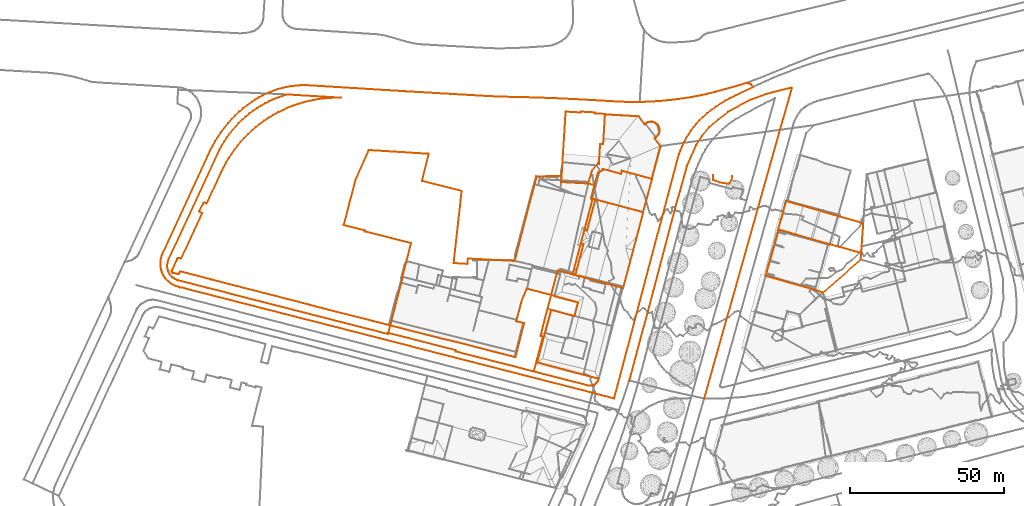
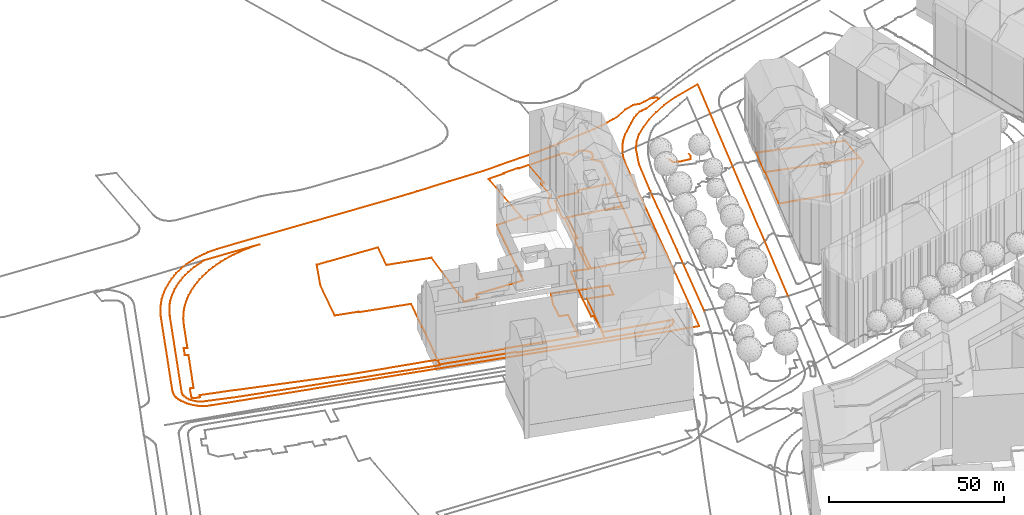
# Not in any storey, part 215 of 494: 14 proxies.
"""IFC2X3 model written with IfcOpenShell, lengths in metres."""

from ifc_helpers import new_model, entity, si_unit, frame, origin_with_axes, place, context, subcontext, project, element, save


model = new_model("IFC2X3")

# Units and contexts
model_context = context("Model", 3, precision=1e-05, world=origin_with_axes())
body_context = subcontext(model_context, "Body", "Model", "MODEL_VIEW")
ifc_project = project(units=[si_unit("AREAUNIT", "SQUARE_METRE"), si_unit("LENGTHUNIT", "METRE")], contexts=[model_context])

# Proxies
proxy_1_placement = place(None, frame((44.610732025, 355.0317323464, 539.326), z_axis=(0.0, 0.0, 1.0), x_axis=(1.0, 0.0, 0.0)))
element("IfcBuildingElementProxy", 1, at=proxy_1_placement, Name="Road 47", ObjectType="NOTDEFINED", context=body_context, shape_type="GeometricCurveSet", body=[
    entity("IfcGeometricCurveSet", [entity("IfcPolyline", [entity("IfcCartesianPoint", [28.5510000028, 101.1739969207, 2.647]), entity("IfcCartesianPoint", [0.0, 0.0, 0.0])])]),
])
proxy_2_placement = place(None, frame((20.2697320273, 360.9057321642, 539.316), z_axis=(0.0, 0.0, 1.0), x_axis=(1.0, 0.0, 0.0)))
element("IfcBuildingElementProxy", 2, at=proxy_2_placement, Name="Road 89", ObjectType="NOTDEFINED", context=body_context, shape_type="GeometricCurveSet", body=[
    entity("IfcGeometricCurveSet", [entity("IfcPolyline", [entity("IfcCartesianPoint", [52.8920000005, 95.2999971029, 2.657]), entity("IfcCartesianPoint", [44.4070000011, 93.1439971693, 2.479]), entity("IfcCartesianPoint", [39.3729999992, 91.2739972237, 2.572]), entity("IfcCartesianPoint", [35.7780000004, 89.4039972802, 2.417]), entity("IfcCartesianPoint", [32.1829999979, 87.3909973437, 2.405]), entity("IfcCartesianPoint", [28.8739999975, 84.8029974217, 2.396]), entity("IfcCartesianPoint", [25.9979999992, 82.3579974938, 2.44]), entity("IfcCartesianPoint", [23.6799999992, 79.6389975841, 2.438]), entity("IfcCartesianPoint", [21.6959999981, 76.5969976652, 2.347]), entity("IfcCartesianPoint", [18.7849999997, 69.8499978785, 2.122]), entity("IfcCartesianPoint", [18.7010000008, 69.5489978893, 2.112]), entity("IfcCartesianPoint", [15.2129999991, 57.1499982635, 1.72]), entity("IfcCartesianPoint", [7.8049999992, 29.10399912, 0.847]), entity("IfcCartesianPoint", [0.0, 0.0, 0.0])])]),
])
proxy_3_placement = place(None, frame((-129.9792679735, 398.5037160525, 539.2976639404), z_axis=(0.0, 0.0, 1.0), x_axis=(1.0, 0.0, 0.0)))
element("IfcBuildingElementProxy", 3, at=proxy_3_placement, Name="Roads Outline 23", ObjectType="NOTDEFINED", context=body_context, shape_type="GeometricCurveSet", body=[
    entity("IfcGeometricCurveSet", [entity("IfcPolyline", [entity("IfcCartesianPoint", [0.4560000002, 1.814, -0.0081571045]), entity("IfcCartesianPoint", [16.3220000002, 36.0729999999, 0.1580245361]), entity("IfcCartesianPoint", [16.9960000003, 37.45, 0.1580245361]), entity("IfcCartesianPoint", [17.7290000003, 38.798, 0.1580245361]), entity("IfcCartesianPoint", [18.5190000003, 40.112, 0.1580245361]), entity("IfcCartesianPoint", [19.3640000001, 41.392, 0.1580245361]), entity("IfcCartesianPoint", [20.264, 42.6339999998, 0.1580245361]), entity("IfcCartesianPoint", [21.216, 43.8359999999, 0.1580245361]), entity("IfcCartesianPoint", [22.219, 44.9959999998, 0.1580245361]), entity("IfcCartesianPoint", [23.2710000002, 46.112, 0.1580245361]), entity("IfcCartesianPoint", [24.3689999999, 47.182, 0.1580245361]), entity("IfcCartesianPoint", [25.5130000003, 48.2039999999, 0.1580245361]), entity("IfcCartesianPoint", [26.699, 49.176, 0.1580245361]), entity("IfcCartesianPoint", [27.926, 50.0959999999, 0.1580245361]), entity("IfcCartesianPoint", [29.1920000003, 50.963, 0.1580245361]), entity("IfcCartesianPoint", [30.4930000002, 51.774, 0.1580245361]), entity("IfcCartesianPoint", [31.8280000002, 52.5289999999, 0.1580245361]), entity("IfcCartesianPoint", [33.1940000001, 53.226, 0.1580245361]), entity("IfcCartesianPoint", [34.5890000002, 53.8629999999, 0.1580245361]), entity("IfcCartesianPoint", [36.0100000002, 54.4409999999, 0.1580245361]), entity("IfcCartesianPoint", [37.4550000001, 54.956, 0.1580245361]), entity("IfcCartesianPoint", [38.9200000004, 55.409, 0.1580245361]), entity("IfcCartesianPoint", [56.4670000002, 54.3389999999, 0.1580245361]), entity("IfcCartesianPoint", [54.7000000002, 54.3499999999, 0.1580245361]), entity("IfcCartesianPoint", [52.9330000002, 54.2859999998, 0.1580245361]), entity("IfcCartesianPoint", [51.1720000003, 54.1469999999, 0.1580245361]), entity("IfcCartesianPoint", [49.4170000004, 53.933, 0.1580245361]), entity("IfcCartesianPoint", [47.6740000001, 53.645, 0.1580245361]), entity("IfcCartesianPoint", [45.9440000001, 53.2829999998, 0.1580245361]), entity("IfcCartesianPoint", [44.2310000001, 52.848, 0.1580245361]), entity("IfcCartesianPoint", [42.5380000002, 52.3399999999, 0.1580245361]), entity("IfcCartesianPoint", [40.8680000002, 51.7609999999, 0.1580245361]), entity("IfcCartesianPoint", [39.2250000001, 51.111, 0.1580245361]), entity("IfcCartesianPoint", [37.6100000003, 50.392, 0.1580245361]), entity("IfcCartesianPoint", [36.0280000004, 49.605, 0.1580245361]), entity("IfcCartesianPoint", [34.48, 48.7519999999, 0.1580245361]), entity("IfcCartesianPoint", [32.9700000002, 47.8329999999, 0.1580245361]), entity("IfcCartesianPoint", [31.5, 46.851, 0.1580245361]), entity("IfcCartesianPoint", [30.074, 45.808, 0.1580245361]), entity("IfcCartesianPoint", [28.7580000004, 44.7589999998, 0.1580245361]), entity("IfcCartesianPoint", [27.4850000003, 43.6579999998, 0.1580245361]), entity("IfcCartesianPoint", [26.2580000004, 42.507, 0.1580245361]), entity("IfcCartesianPoint", [25.0780000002, 41.3059999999, 0.1580245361]), entity("IfcCartesianPoint", [23.9480000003, 40.0589999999, 0.1580245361]), entity("IfcCartesianPoint", [22.8689999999, 38.767, 0.1580245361]), entity("IfcCartesianPoint", [21.844, 37.433, 0.1580245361]), entity("IfcCartesianPoint", [20.8730000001, 36.058, 0.1580245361]), entity("IfcCartesianPoint", [19.9590000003, 34.645, 0.1580245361]), entity("IfcCartesianPoint", [19.102, 33.1969999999, 0.1580245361]), entity("IfcCartesianPoint", [18.3050000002, 31.7139999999, 0.1580245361]), entity("IfcCartesianPoint", [17.5690000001, 30.2009999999, 0.1580245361]), entity("IfcCartesianPoint", [12.8080000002, 19.8959999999, 0.1146627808]), entity("IfcCartesianPoint", [11.8260000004, 20.3369999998, 0.1138363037]), entity("IfcCartesianPoint", [10.3800000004, 17.2589999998, 0.1123380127]), entity("IfcCartesianPoint", [11.372, 16.814, 0.1101798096]), entity("IfcCartesianPoint", [4.4900000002, 1.9949999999, -0.0055057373]), entity("IfcCartesianPoint", [4.0530000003, 2.203, -0.0024588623]), entity("IfcCartesianPoint", [3.8800000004, 2.227, -0.0021072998]), entity("IfcCartesianPoint", [3.7060000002, 2.2109999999, -0.0023416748]), entity("IfcCartesianPoint", [3.5410000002, 2.155, -0.0031619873]), entity("IfcCartesianPoint", [3.392, 2.0629999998, -0.0045096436]), entity("IfcCartesianPoint", [3.2690000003, 1.9399999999, -0.0063114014]), entity("IfcCartesianPoint", [3.1770000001, 1.791, -0.0084940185]), entity("IfcCartesianPoint", [1.5650000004, -1.7960000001, 0.0688849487]), entity("IfcCartesianPoint", [1.5160000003, -1.98, 0.0642158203]), entity("IfcCartesianPoint", [1.5300000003, -2.1700000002, 0.0567243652]), entity("IfcCartesianPoint", [1.6040000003, -2.3460000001, 0.0497849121]), entity("IfcCartesianPoint", [1.7000000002, -2.4620000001, 0.0452111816]), entity("IfcCartesianPoint", [1.8230000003, -2.55, 0.0417414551]), entity("IfcCartesianPoint", [1.963, -2.6040000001, 0.0396123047]), entity("IfcCartesianPoint", [3.324, -2.946, 0.0219205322]), entity("IfcCartesianPoint", [3.477, -2.9640000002, 0.0205406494]), entity("IfcCartesianPoint", [3.6290000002, -2.943, 0.0221505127]), entity("IfcCartesianPoint", [3.7710000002, -2.8840000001, 0.0266734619]), entity("IfcCartesianPoint", [3.8970000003, -2.7860000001, 0.0324362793]), entity("IfcCartesianPoint", [3.9930000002, -2.659, 0.0374437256]), entity("IfcCartesianPoint", [4.0530000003, -2.5110000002, 0.0432791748]), entity("IfcCartesianPoint", [4.1460000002, -2.125, 0.0584986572]), entity("IfcCartesianPoint", [14.3480000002, -4.716, -0.1490685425]), entity("IfcCartesianPoint", [14.6040000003, -4.7810000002, -0.1566500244]), entity("IfcCartesianPoint", [14.5890000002, -4.8390000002, -0.1634157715]), entity("IfcCartesianPoint", [46.4100000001, -13.0050000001, -1.0613162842]), entity("IfcCartesianPoint", [46.398, -13.0530000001, -1.0582108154]), entity("IfcCartesianPoint", [66.7110000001, -18.22, -0.8727605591]), entity("IfcCartesianPoint", [71.2630000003, -19.3770000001, -0.8522108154]), entity("IfcCartesianPoint", [72.2390000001, -19.6270000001, -0.8477705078]), entity("IfcCartesianPoint", [88.162, -23.7110000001, -0.7752872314]), entity("IfcCartesianPoint", [88.608, -23.8250000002, -0.7732694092]), entity("IfcCartesianPoint", [93.0760000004, -24.8600000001, -0.7548870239]), entity("IfcCartesianPoint", [113.199, -30.0420000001, -0.662861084]), entity("IfcCartesianPoint", [116.048, -18.97, -0.8594396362]), entity("IfcCartesianPoint", [113.514, -18.317, -0.8710377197]), entity("IfcCartesianPoint", [115.1530000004, -11.9480000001, -0.9666266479]), entity("IfcCartesianPoint", [116.8940000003, -7.746, -0.5581720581]), entity("IfcCartesianPoint", [125.952, -10.0930000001, -0.7818460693]), entity("IfcCartesianPoint", [125.932, -10.166, -0.7882353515]), entity("IfcCartesianPoint", [133.5990000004, -12.22, -0.8647923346]), entity("IfcCartesianPoint", [132.4190000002, -16.638, -0.847983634]), entity("IfcCartesianPoint", [132.4040000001, -16.6940000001, -0.8482856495]), entity("IfcCartesianPoint", [124.8120000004, -14.6600000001, -0.9306699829]), entity("IfcCartesianPoint", [122.7170000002, -22.5090000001, -0.7965826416]), entity("IfcCartesianPoint", [120.2650000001, -31.696, -0.6335322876]), entity("IfcCartesianPoint", [140.324, -37.0490000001, -0.1245398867]), entity("IfcCartesianPoint", [140.1700000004, -37.4880000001, -0.1121940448]), entity("IfcCartesianPoint", [139.9500000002, -37.898, -0.120806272]), entity("IfcCartesianPoint", [139.6690000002, -38.2690000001, -0.1700981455]), entity("IfcCartesianPoint", [139.335, -38.5920000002, -0.208320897]), entity("IfcCartesianPoint", [138.9540000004, -38.8600000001, -0.2353365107]), entity("IfcCartesianPoint", [138.534, -39.0590000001, -0.2566715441]), entity("IfcCartesianPoint", [138.088, -39.1910000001, -0.2815631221]), entity("IfcCartesianPoint", [137.6270000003, -39.253, -0.322084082]), entity("IfcCartesianPoint", [137.162, -39.2420000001, -0.3612637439]), entity("IfcCartesianPoint", [136.7040000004, -39.1600000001, -0.3818549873]), entity("IfcCartesianPoint", [119.182, -34.672, -0.5855060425]), entity("IfcCartesianPoint", [93.841, -28.1730000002, -0.6960440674]), entity("IfcCartesianPoint", [93.9410000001, -27.7830000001, -0.7029709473]), entity("IfcCartesianPoint", [71.8700000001, -22.1240000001, -0.8034207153]), entity("IfcCartesianPoint", [71.77, -22.514, -0.7964938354]), entity("IfcCartesianPoint", [13.077, -7.466, -0.5204889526]), entity("IfcCartesianPoint", [3.767, -5.0870000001, -0.1923723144]), entity("IfcCartesianPoint", [3.173, -4.9010000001, -0.1706549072]), entity("IfcCartesianPoint", [2.6060000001, -4.642, -0.1404373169]), entity("IfcCartesianPoint", [2.077, -4.3150000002, -0.1022966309]), entity("IfcCartesianPoint", [1.5920000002, -3.9240000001, -0.0566911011]), entity("IfcCartesianPoint", [1.159, -3.476, -0.0187093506]), entity("IfcCartesianPoint", [0.7860000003, -2.9780000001, 0.0194674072]), entity("IfcCartesianPoint", [0.477, -2.4370000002, 0.0461968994]), entity("IfcCartesianPoint", [0.2439999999, -1.855, 0.0691444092]), entity("IfcCartesianPoint", [0.085, -1.2490000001, 0.0522252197]), entity("IfcCartesianPoint", [0.003, -0.6270000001, 0.0297733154]), entity("IfcCartesianPoint", [0.0, 0.0, 0.0]), entity("IfcCartesianPoint", [0.0760000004, 0.622, -0.0123456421]), entity("IfcCartesianPoint", [0.2280000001, 1.23, -0.016711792]), entity("IfcCartesianPoint", [0.4560000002, 1.814, -0.0081571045])])]),
])
proxy_4_placement = place(None, frame((-132.1772679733, 399.1867160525, 539.2847263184), z_axis=(0.0, 0.0, 1.0), x_axis=(1.0, 0.0, 0.0)))
element("IfcBuildingElementProxy", 4, at=proxy_4_placement, Name="Roads Outline 24", ObjectType="NOTDEFINED", context=body_context, shape_type="GeometricCurveSet", body=[
    entity("IfcGeometricCurveSet", [entity("IfcPolyline", [entity("IfcCartesianPoint", [0.0, 0.0, 0.0]), entity("IfcCartesianPoint", [0.0580000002, 0.7479999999, -0.000829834]), entity("IfcCartesianPoint", [0.1830000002, 1.4879999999, 0.0100100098]), entity("IfcCartesianPoint", [0.3730000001, 2.213, 0.020630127]), entity("IfcCartesianPoint", [0.628, 2.919, 0.0309453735]), entity("IfcCartesianPoint", [15.3999999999, 34.7830000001, 0.1709621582]), entity("IfcCartesianPoint", [16.1329999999, 36.416, 0.1709621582]), entity("IfcCartesianPoint", [16.9380000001, 38.0149999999, 0.1709621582]), entity("IfcCartesianPoint", [17.8130000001, 39.577, 0.1709621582]), entity("IfcCartesianPoint", [18.7560000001, 41.098, 0.1709621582]), entity("IfcCartesianPoint", [19.7659999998, 42.5759999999, 0.1709621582]), entity("IfcCartesianPoint", [20.841, 44.0079999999, 0.1709621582]), entity("IfcCartesianPoint", [21.9530000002, 45.362, 0.1709621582]), entity("IfcCartesianPoint", [23.1230000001, 46.6669999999, 0.1709621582]), entity("IfcCartesianPoint", [24.3480000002, 47.9199999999, 0.1709621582]), entity("IfcCartesianPoint", [25.6260000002, 49.1189999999, 0.1709621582]), entity("IfcCartesianPoint", [26.9550000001, 50.2609999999, 0.1709621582]), entity("IfcCartesianPoint", [28.3330000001, 51.344, 0.1709621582]), entity("IfcCartesianPoint", [29.7560000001, 52.3669999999, 0.1709621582]), entity("IfcCartesianPoint", [30.8620000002, 53.1070000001, 0.1709621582]), entity("IfcCartesianPoint", [32.0010000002, 53.7959999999, 0.1709621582]), entity("IfcCartesianPoint", [33.1699999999, 54.433, 0.1709621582]), entity("IfcCartesianPoint", [34.3659999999, 55.017, 0.1709621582]), entity("IfcCartesianPoint", [35.6510000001, 55.5719999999, 0.1709621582]), entity("IfcCartesianPoint", [36.9610000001, 56.064, 0.1709621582]), entity("IfcCartesianPoint", [38.2930000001, 56.4939999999, 0.1709621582]), entity("IfcCartesianPoint", [39.6430000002, 56.8599999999, 0.1709621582]), entity("IfcCartesianPoint", [41.0100000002, 57.1609999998, 0.1709621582]), entity("IfcCartesianPoint", [42.5060000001, 57.4180000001, 0.1709621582]), entity("IfcCartesianPoint", [44.014, 57.598, 0.1709621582]), entity("IfcCartesianPoint", [45.5290000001, 57.702, 0.1709621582]), entity("IfcCartesianPoint", [47.0470000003, 57.7290000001, 0.1709621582]), entity("IfcCartesianPoint", [48.5640000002, 57.679, 0.1709621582]), entity("IfcCartesianPoint", [79.8539999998, 55.7390000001, 0.1709621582]), entity("IfcCartesianPoint", [106.3429999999, 54.206, 0.1709621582]), entity("IfcCartesianPoint", [108.6409999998, 54.0970000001, 0.1709621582]), entity("IfcCartesianPoint", [110.9399999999, 54.0090000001, 0.1709621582]), entity("IfcCartesianPoint", [113.483, 53.939, 0.1709621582]), entity("IfcCartesianPoint", [116.0260000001, 53.8969999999, 0.1709621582]), entity("IfcCartesianPoint", [121.4989999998, 53.7490000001, 0.1709621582]), entity("IfcCartesianPoint", [126.9709999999, 53.5530000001, 0.1709621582]), entity("IfcCartesianPoint", [132.25, 53.3219999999, 0.2263533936]), entity("IfcCartesianPoint", [137.5260000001, 53.0459999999, 0.5566784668]), entity("IfcCartesianPoint", [146.4780000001, 52.5379999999, 1.1759785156]), entity("IfcCartesianPoint", [148.8149999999, 52.4010000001, 1.3408413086]), entity("IfcCartesianPoint", [151.1540000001, 52.3149999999, 1.505840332]), entity("IfcCartesianPoint", [153.4950000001, 52.28, 1.6707314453]), entity("IfcCartesianPoint", [155.8360000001, 52.2959999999, 1.8248441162]), entity("IfcCartesianPoint", [156.5260000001, 52.308, 1.8687376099]), entity("IfcCartesianPoint", [157.2149999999, 52.325, 1.9125991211]), entity("IfcCartesianPoint", [159.7570000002, 52.429, 2.074397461]), entity("IfcCartesianPoint", [162.2960000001, 52.594, 2.0724216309]), entity("IfcCartesianPoint", [164.8310000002, 52.8189999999, 2.1272253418]), entity("IfcCartesianPoint", [167.0699999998, 53.067, 2.0545699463]), entity("IfcCartesianPoint", [169.3029999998, 53.3629999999, 2.0138759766]), entity("IfcCartesianPoint", [171.5300000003, 53.7050000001, 2.0725414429]), entity("IfcCartesianPoint", [173.7280000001, 54.0759999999, 2.2215261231]), entity("IfcCartesianPoint", [175.9160000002, 54.504, 2.2819563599]), entity("IfcCartesianPoint", [178.0920000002, 54.99, 2.4810037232]), entity("IfcCartesianPoint", [180.5720000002, 55.6199999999, 3.3482492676]), entity("IfcCartesianPoint", [183.0329999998, 56.3229999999, 3.3436479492]), entity("IfcCartesianPoint", [183.7579999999, 56.5449999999, 3.2761661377]), entity("IfcCartesianPoint", [186.0090000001, 57.1229999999, 2.5087397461]), entity("IfcCartesianPoint", [188.2430000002, 57.763, 2.1510275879]), entity("IfcCartesianPoint", [190.4580000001, 58.466, 2.0687412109]), entity("IfcCartesianPoint", [190.946, 58.382, 2.0569462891]), entity("IfcCartesianPoint", [191.4199999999, 58.237, 2.0489174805]), entity("IfcCartesianPoint", [191.8629999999, 58.0389999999, 2.0615715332]), entity("IfcCartesianPoint", [192.2779999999, 57.7879999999, 2.0734257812]), entity("IfcCartesianPoint", [192.6239999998, 57.1459999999, 2.0698787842]), entity("IfcCartesianPoint", [186.7609999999, 54.29, 2.3174960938]), entity("IfcCartesianPoint", [185.1860000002, 53.517, 2.8058417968]), entity("IfcCartesianPoint", [183.645, 52.679, 3.2944155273]), entity("IfcCartesianPoint", [182.1409999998, 51.7779999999, 3.3651279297]), entity("IfcCartesianPoint", [180.6749999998, 50.814, 3.3584084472]), entity("IfcCartesianPoint", [179.2039999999, 49.753, 2.7325586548]), entity("IfcCartesianPoint", [177.781, 48.629, 2.4196351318]), entity("IfcCartesianPoint", [176.4070000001, 47.4450000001, 2.2768447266]), entity("IfcCartesianPoint", [175.0860000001, 46.202, 2.2866617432]), entity("IfcCartesianPoint", [174.1540000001, 45.1459999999, 2.2548073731]), entity("IfcCartesianPoint", [173.273, 44.0489999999, 2.1833717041]), entity("IfcCartesianPoint", [172.4419999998, 42.9109999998, 2.0920245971]), entity("IfcCartesianPoint", [171.6660000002, 41.737, 2.0741766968]), entity("IfcCartesianPoint", [170.9440000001, 40.5279999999, 2.0594749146]), entity("IfcCartesianPoint", [170.2630000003, 39.2549999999, 2.0408618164]), entity("IfcCartesianPoint", [169.6430000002, 37.9509999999, 2.0212976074]), entity("IfcCartesianPoint", [169.085, 36.6199999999, 2.0208614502]), entity("IfcCartesianPoint", [168.5899999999, 35.263, 2.0367229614]), entity("IfcCartesianPoint", [168.1600000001, 33.885, 2.0436937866]), entity("IfcCartesianPoint", [156.6880000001, -9.3800000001, 0.8902549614]), entity("IfcCartesianPoint", [148.6529999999, -39.767, -0.0517641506]), entity("IfcCartesianPoint", [147.4550000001, -44.1200000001, -0.1773587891]), entity("IfcCartesianPoint", [143.6299999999, -43.112, -0.215316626]), entity("IfcCartesianPoint", [140.4580000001, -42.2879999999, -0.3057739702]), entity("IfcCartesianPoint", [7.1310000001, -8.128, -0.5047250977]), entity("IfcCartesianPoint", [6.395, -7.996, -0.4869602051]), entity("IfcCartesianPoint", [5.673, -7.7990000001, -0.4604474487]), entity("IfcCartesianPoint", [4.9709999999, -7.54, -0.4255905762]), entity("IfcCartesianPoint", [4.2949999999, -7.2210000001, -0.3763928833]), entity("IfcCartesianPoint", [3.6499999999, -6.8430000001, -0.3174918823]), entity("IfcCartesianPoint", [3.04, -6.409, -0.2540444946]), entity("IfcCartesianPoint", [2.4709999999, -5.9240000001, -0.1974157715]), entity("IfcCartesianPoint", [2.0040000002, -5.4540000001, -0.1425460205]), entity("IfcCartesianPoint", [1.5759999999, -4.95, -0.083760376]), entity("IfcCartesianPoint", [1.1869999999, -4.4129999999, -0.0252434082]), entity("IfcCartesianPoint", [0.8420000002, -3.848, 0.0180695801]), entity("IfcCartesianPoint", [0.5419999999, -3.2580000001, 0.0536933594]), entity("IfcCartesianPoint", [0.3300000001, -2.628, 0.0785334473]), entity("IfcCartesianPoint", [0.1690000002, -1.983, 0.0667161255]), entity("IfcCartesianPoint", [0.0600000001, -1.327, 0.0435181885]), entity("IfcCartesianPoint", [0.0040000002, -0.665, 0.0120828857]), entity("IfcCartesianPoint", [0.0, 0.0, 0.0])])]),
])
proxy_5_placement = place(None, frame((1.9097320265, 395.6687160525, 539.3216141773), z_axis=(0.0, 0.0, 1.0), x_axis=(1.0, 0.0, 0.0)))
element("IfcBuildingElementProxy", 5, at=proxy_5_placement, Name="Roads Outline 25", ObjectType="NOTDEFINED", context=body_context, shape_type="GeometricCurveSet", body=[
    entity("IfcGeometricCurveSet", [entity("IfcPolyline", [entity("IfcCartesianPoint", [0.0, 0.0, 0.0]), entity("IfcCartesianPoint", [2.6120000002, 9.872, 0.2168953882]), entity("IfcCartesianPoint", [3.4810000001, 9.6369999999, 0.2680851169]), entity("IfcCartesianPoint", [0.8690000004, -0.2350000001, 0.0328121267]), entity("IfcCartesianPoint", [0.0, 0.0, 0.0])])]),
])
proxy_6_placement = place(None, frame((5.6737320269, 409.8967160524, 539.6586860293), z_axis=(0.0, 0.0, 1.0), x_axis=(1.0, 0.0, 0.0)))
element("IfcBuildingElementProxy", 6, at=proxy_6_placement, Name="Roads Outline 26", ObjectType="NOTDEFINED", context=body_context, shape_type="GeometricCurveSet", body=[
    entity("IfcGeometricCurveSet", [entity("IfcPolyline", [entity("IfcCartesianPoint", [0.0, 0.0, 0.0]), entity("IfcCartesianPoint", [2.5729999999, 9.727, 0.2684005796]), entity("IfcCartesianPoint", [2.673, 10.0970000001, 0.2787475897]), entity("IfcCartesianPoint", [3.5329999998, 9.868, 0.329449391]), entity("IfcCartesianPoint", [0.8699999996, -0.23, 0.0512986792]), entity("IfcCartesianPoint", [0.0969999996, -0.0260000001, 0.0057168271]), entity("IfcCartesianPoint", [0.0, 0.0, 0.0])])]),
])
proxy_7_placement = place(None, frame((1.8197320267, 395.3787160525, 539.2882389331), z_axis=(0.0, 0.0, 1.0), x_axis=(1.0, 0.0, 0.0)))
element("IfcBuildingElementProxy", 7, at=proxy_7_placement, Name="Cadastre 21", ObjectType="NOTDEFINED", context=body_context, shape_type="GeometricCurveSet", body=[
    entity("IfcGeometricCurveSet", [entity("IfcPolyline", [entity("IfcCartesianPoint", [0.0, 0.0, 0.0]), entity("IfcCartesianPoint", [0.0899999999, 0.29, 0.0333752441]), entity("IfcCartesianPoint", [6.4270000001, 24.2449999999, 0.6388476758]), entity("IfcCartesianPoint", [6.5270000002, 24.615, 0.6491946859]), entity("IfcCartesianPoint", [7.4840000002, 24.3599999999, 0.7056097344]), entity("IfcCartesianPoint", [22.9180000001, 20.2559999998, 1.6154132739]), entity("IfcCartesianPoint", [23.0019999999, 20.2339999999, 1.6203764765]), entity("IfcCartesianPoint", [16.4410000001, -4.429, 0.8928520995]), entity("IfcCartesianPoint", [16.3310000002, -4.399, 0.8909503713]), entity("IfcCartesianPoint", [0.0, 0.0, 0.0])])]),
])
proxy_8_placement = place(None, frame((7.7867320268, 420.1437160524, 539.9044291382), z_axis=(0.0, 0.0, 1.0), x_axis=(1.0, 0.0, 0.0)))
element("IfcBuildingElementProxy", 8, at=proxy_8_placement, Name="Cadastre 22", ObjectType="NOTDEFINED", context=body_context, shape_type="GeometricCurveSet", body=[
    entity("IfcGeometricCurveSet", [entity("IfcPolyline", [entity("IfcCartesianPoint", [0.0, 0.0, 0.0]), entity("IfcCartesianPoint", [1.1599999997, 4.2409999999, 0.119373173]), entity("IfcCartesianPoint", [2.2889999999, 8.2920000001, 0.2581801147]), entity("IfcCartesianPoint", [4.0290000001, 9.223, 0.3809424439]), entity("IfcCartesianPoint", [3.8689999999, 9.5430000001, 0.3696533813]), entity("IfcCartesianPoint", [9.7689999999, 7.943, 0.7858765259]), entity("IfcCartesianPoint", [10.0490000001, 8.943, 0.8056323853]), entity("IfcCartesianPoint", [19.7199999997, 6.3230000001, 1.4440600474]), entity("IfcCartesianPoint", [19.8700000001, 6.2830000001, 1.4509943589]), entity("IfcCartesianPoint", [16.9509999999, -4.5090000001, 0.9992230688]), entity("IfcCartesianPoint", [1.517, -0.405, 0.0894195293]), entity("IfcCartesianPoint", [0.5600000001, -0.1499999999, 0.0330044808]), entity("IfcCartesianPoint", [0.0, 0.0, 0.0])])]),
])
proxy_9_placement = place(None, frame((6.906732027, 424.9447160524, 539.9037567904), z_axis=(0.0, 0.0, 1.0), x_axis=(1.0, 0.0, 0.0)))
element("IfcBuildingElementProxy", 9, at=proxy_9_placement, Name="Cadastre 23", ObjectType="NOTDEFINED", context=body_context, shape_type="GeometricCurveSet", body=[
    entity("IfcGeometricCurveSet", [entity("IfcPolyline", [entity("IfcCartesianPoint", [0.0, 0.0, 0.0]), entity("IfcCartesianPoint", [1.1989999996, 4.2310000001, 0.1199941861]), entity("IfcCartesianPoint", [3.2589999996, 6.682, 0.265197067]), entity("IfcCartesianPoint", [3.4789999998, 6.382, 0.2807187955]), entity("IfcCartesianPoint", [3.8679999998, 12.8730000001, 0.3081653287]), entity("IfcCartesianPoint", [4.8679999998, 12.8130000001, 0.3787219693]), entity("IfcCartesianPoint", [5.4469999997, 22.4650000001, 0.4195742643]), entity("IfcCartesianPoint", [16.4669999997, 21.8360000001, 1.1876880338]), entity("IfcCartesianPoint", [18.3779999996, 19.206, 1.309292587]), entity("IfcCartesianPoint", [18.7049999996, 19.5080000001, 1.3301092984]), entity("IfcCartesianPoint", [19.0769999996, 19.754, 1.3537906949]), entity("IfcCartesianPoint", [19.4829999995, 19.9370000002, 1.3796365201]), entity("IfcCartesianPoint", [19.9129999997, 20.0530000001, 1.4070101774]), entity("IfcCartesianPoint", [20.3559999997, 20.098, 1.4352062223]), entity("IfcCartesianPoint", [20.801, 20.0720000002, 1.4635076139]), entity("IfcCartesianPoint", [21.2359999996, 19.9750000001, 1.4911730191]), entity("IfcCartesianPoint", [21.6489999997, 19.8090000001, 1.4906073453]), entity("IfcCartesianPoint", [22.031, 19.5790000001, 1.4877861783]), entity("IfcCartesianPoint", [22.3709999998, 19.291, 1.4825469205]), entity("IfcCartesianPoint", [22.6599999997, 18.952, 1.4725278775]), entity("IfcCartesianPoint", [22.8909999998, 18.571, 1.4645195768]), entity("IfcCartesianPoint", [23.0579999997, 18.1580000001, 1.458730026]), entity("IfcCartesianPoint", [23.1569999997, 17.723, 1.4552978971]), entity("IfcCartesianPoint", [23.1849999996, 17.2779999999, 1.454327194]), entity("IfcCartesianPoint", [23.1409999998, 16.835, 1.4558525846]), entity("IfcCartesianPoint", [23.0259999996, 16.4040000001, 1.459839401]), entity("IfcCartesianPoint", [22.8439999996, 15.997, 1.4661489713]), entity("IfcCartesianPoint", [22.5989999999, 15.625, 1.4746426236]), entity("IfcCartesianPoint", [22.298, 15.297, 1.4850776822]), entity("IfcCartesianPoint", [21.9479999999, 15.0209999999, 1.4883991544]), entity("IfcCartesianPoint", [21.5579999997, 14.8049999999, 1.4912794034]), entity("IfcCartesianPoint", [23.4589999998, 12.1850000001, 1.4590337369]), entity("IfcCartesianPoint", [20.5999999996, 1.5220000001, 1.4447323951]), entity("IfcCartesianPoint", [10.929, 4.142, 0.806304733]), entity("IfcCartesianPoint", [10.6489999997, 3.142, 0.7865488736]), entity("IfcCartesianPoint", [4.7489999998, 4.7420000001, 0.3703257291]), entity("IfcCartesianPoint", [4.909, 4.422, 0.3816147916]), entity("IfcCartesianPoint", [3.1689999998, 3.4910000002, 0.2588524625]), entity("IfcCartesianPoint", [2.0399999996, -0.5600000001, 0.1200455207]), entity("IfcCartesianPoint", [0.0, 0.0, 0.0])])]),
])
proxy_10_placement = place(None, frame((68.6347320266, 410.0317160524, 540.8389018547), z_axis=(0.0, 0.0, 1.0), x_axis=(1.0, 0.0, 0.0)))
element("IfcBuildingElementProxy", 10, at=proxy_10_placement, Name="Cadastre 66", ObjectType="NOTDEFINED", context=body_context, shape_type="GeometricCurveSet", body=[
    entity("IfcGeometricCurveSet", [entity("IfcPolyline", [entity("IfcCartesianPoint", [0.0, 0.0, 0.0]), entity("IfcCartesianPoint", [2.602, 9.1909999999, 0.343342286]), entity("IfcCartesianPoint", [2.801, 9.1340000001, 0.3439122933]), entity("IfcCartesianPoint", [19.5430000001, 4.3200000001, 0.2264138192]), entity("IfcCartesianPoint", [27.6970000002, 1.9750000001, 0.0820575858]), entity("IfcCartesianPoint", [27.1630000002, -5.5600000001, 0.0941434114]), entity("IfcCartesianPoint", [27.014, -7.672, 0.1926774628]), entity("IfcCartesianPoint", [16.9240000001, -4.861, 0.1180278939]), entity("IfcCartesianPoint", [16.3089999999, -4.689, 0.1169479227]), entity("IfcCartesianPoint", [0.2590000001, -0.074, 0.0023835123]), entity("IfcCartesianPoint", [0.0, 0.0, 0.0])])]),
])
proxy_11_placement = place(None, frame((64.5867320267, 394.9017160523, 540.4985098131), z_axis=(0.0, 0.0, 1.0), x_axis=(1.0, 0.0, 0.0)))
element("IfcBuildingElementProxy", 11, at=proxy_11_placement, Name="Cadastre 68", ObjectType="NOTDEFINED", context=body_context, shape_type="GeometricCurveSet", body=[
    entity("IfcGeometricCurveSet", [entity("IfcPolyline", [entity("IfcCartesianPoint", [0.0, 0.0, 0.0]), entity("IfcCartesianPoint", [4.307, 15.0560000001, 0.3427755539]), entity("IfcCartesianPoint", [20.3569999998, 10.4410000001, 0.4573399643]), entity("IfcCartesianPoint", [20.9720000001, 10.2690000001, 0.4584199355]), entity("IfcCartesianPoint", [31.0619999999, 7.4580000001, 0.5330695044]), entity("IfcCartesianPoint", [30.909, 5.3010000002, 0.6723669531]), entity("IfcCartesianPoint", [18.6890000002, -5.402, 0.5746970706]), entity("IfcCartesianPoint", [16.0180000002, -4.5659999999, 0.5225167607]), entity("IfcCartesianPoint", [0.0, 0.0, 0.0])])]),
])
proxy_12_placement = place(None, frame((-72.5632679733, 411.4347160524, 539.3834506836), z_axis=(0.0, 0.0, 1.0), x_axis=(1.0, 0.0, 0.0)))
element("IfcBuildingElementProxy", 12, at=proxy_12_placement, Name="Cadastre 111", ObjectType="NOTDEFINED", context=body_context, shape_type="GeometricCurveSet", body=[
    entity("IfcGeometricCurveSet", [entity("IfcPolyline", [entity("IfcCartesianPoint", [0.0, 0.0, 0.0]), entity("IfcCartesianPoint", [0.0499999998, 0.1910000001, 0.0012124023]), entity("IfcCartesianPoint", [3.838, 14.834, 0.0564926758]), entity("IfcCartesianPoint", [8.1170000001, 24.3860000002, 0.072237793]), entity("IfcCartesianPoint", [11.6069999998, 24.176, 0.072237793]), entity("IfcCartesianPoint", [27.628, 23.1770000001, 0.072237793]), entity("IfcCartesianPoint", [25.389, 14.3959999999, 0.0515737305]), entity("IfcCartesianPoint", [38.3289999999, 11.1060000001, 0.0199587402]), entity("IfcCartesianPoint", [35.7220000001, -12.3389999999, -0.0978412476]), entity("IfcCartesianPoint", [40.1570000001, -12.638, -0.0949395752]), entity("IfcCartesianPoint", [40.3819999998, -10.888, -0.0905893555]), entity("IfcCartesianPoint", [55.5320000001, -11.6669999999, -0.1020004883]), entity("IfcCartesianPoint", [62.699, 15.8290000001, 0.0676669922]), entity("IfcCartesianPoint", [70.8190000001, 15.9300000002, 0.0688012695]), entity("IfcCartesianPoint", [70.6889999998, 13.99, 0.0470141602]), entity("IfcCartesianPoint", [79.4700000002, 13.51, 0.5203061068]), entity("IfcCartesianPoint", [81.5099999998, 12.95, 0.6403516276]), entity("IfcCartesianPoint", [80.3500000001, 8.709, 0.5209784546]), entity("IfcCartesianPoint", [80.9100000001, 8.5590000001, 0.5539829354]), entity("IfcCartesianPoint", [80.8100000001, 8.189, 0.5436359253]), entity("IfcCartesianPoint", [74.4729999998, -15.7659999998, -0.0618365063]), entity("IfcCartesianPoint", [74.3829999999, -16.0559999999, -0.0952117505]), entity("IfcCartesianPoint", [69.4929999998, -14.736, -0.0166276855]), entity("IfcCartesianPoint", [66.2340000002, -27.219, -1.0511273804]), entity("IfcCartesianPoint", [63.9449999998, -36.0109999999, -0.8722427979]), entity("IfcCartesianPoint", [64.8149999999, -36.1909999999, -0.8690567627]), entity("IfcCartesianPoint", [61.7659999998, -47.6029999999, -0.6712927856]), entity("IfcCartesianPoint", [36.4249999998, -41.1040000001, -0.7818308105]), entity("IfcCartesianPoint", [36.5249999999, -40.7139999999, -0.7887576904]), entity("IfcCartesianPoint", [14.4539999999, -35.0549999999, -0.8892074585]), entity("IfcCartesianPoint", [15.094, -32.6239999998, -0.9323850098]), entity("IfcCartesianPoint", [19.102, -17.281, -0.1921657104]), entity("IfcCartesianPoint", [18.952, -17.2409999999, -0.1875001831]), entity("IfcCartesianPoint", [20.4610000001, -11.3299999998, -0.0970639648]), entity("IfcCartesianPoint", [21.861, -5.8689999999, -0.0377994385]), entity("IfcCartesianPoint", [6.77, -2.0289999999, -0.0128955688]), entity("IfcCartesianPoint", [6.8500000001, -1.7389999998, -0.0110385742]), entity("IfcCartesianPoint", [0.0, 0.0, 0.0])])]),
])
proxy_13_placement = place(None, frame((-1.8742679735, 425.4247160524, 539.4304648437), z_axis=(0.0, 0.0, 1.0), x_axis=(1.0, 0.0, 0.0)))
element("IfcBuildingElementProxy", 13, at=proxy_13_placement, Name="Cadastre 114", ObjectType="NOTDEFINED", context=body_context, shape_type="GeometricCurveSet", body=[
    entity("IfcGeometricCurveSet", [entity("IfcPolyline", [entity("IfcCartesianPoint", [0.0, 0.0, 0.0]), entity("IfcCartesianPoint", [0.1300000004, 1.9400000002, 0.0217871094]), entity("IfcCartesianPoint", [0.4470000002, 6.9710000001, 0.0252236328]), entity("IfcCartesianPoint", [1.3880000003, 21.9240000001, 0.0460185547]), entity("IfcCartesianPoint", [1.4380000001, 22.9040000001, 0.0491130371]), entity("IfcCartesianPoint", [6.338, 22.6040000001, 0.3538553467]), entity("IfcCartesianPoint", [6.358, 22.9040000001, 0.3551456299]), entity("IfcCartesianPoint", [11.0580000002, 22.625, 0.6692623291]), entity("IfcCartesianPoint", [11.0380000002, 22.325, 0.6678515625]), entity("IfcCartesianPoint", [14.2380000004, 22.135, 0.8935717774]), entity("IfcCartesianPoint", [14.2280000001, 21.9850000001, 0.8928662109]), entity("IfcCartesianPoint", [13.6490000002, 12.3330000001, 0.852013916]), entity("IfcCartesianPoint", [12.6490000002, 12.3930000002, 0.7814572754]), entity("IfcCartesianPoint", [12.2600000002, 5.902, 0.7540107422]), entity("IfcCartesianPoint", [12.04, 6.202, 0.7384890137]), entity("IfcCartesianPoint", [9.98, 3.7510000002, 0.5932861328]), entity("IfcCartesianPoint", [8.7810000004, -0.48, 0.4732919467]), entity("IfcCartesianPoint", [0.0, 0.0, 0.0])])]),
])
proxy_14_placement = place(None, frame((47.4532316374, 427.6707160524, 542.0), z_axis=(0.0, 0.0, 1.0), x_axis=(1.0, 0.0, 0.0)))
element("IfcBuildingElementProxy", 14, at=proxy_14_placement, Name="Contour Line 542.0 m", ObjectType="NOTDEFINED", context=body_context, shape_type="GeometricCurveSet", body=[
    entity("IfcGeometricCurveSet", [entity("IfcPolyline", [entity("IfcCartesianPoint", [6.2674761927, 0.0, 0.0]), entity("IfcCartesianPoint", [6.0807139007, -1.5, 0.0]), entity("IfcCartesianPoint", [5.2245003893, -2.8086319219, 0.0]), entity("IfcCartesianPoint", [2.2245003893, -2.3788685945, 0.0]), entity("IfcCartesianPoint", [0.2245003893, -1.6282358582, 0.0]), entity("IfcCartesianPoint", [0.0200678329, -1.5, 0.0]), entity("IfcCartesianPoint", [0.0, 0.0, 0.0])])]),
])

save(model, "model.ifc")
